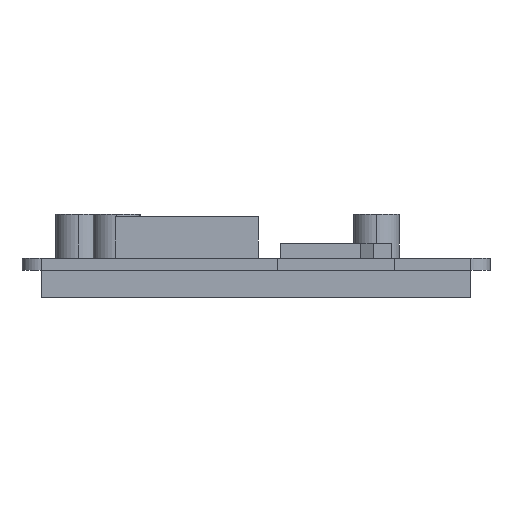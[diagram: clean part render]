
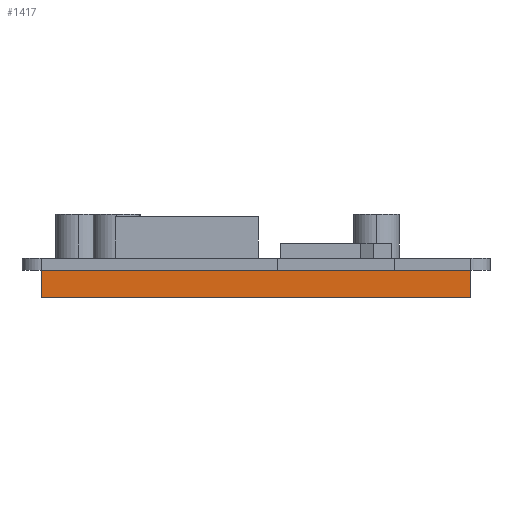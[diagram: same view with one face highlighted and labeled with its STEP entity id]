
A CAD part, left-side view. The second image highlights one B-rep face of the part: STEP entity #1417.
In plain terms, the highlighted planar face has unit normal (-1, 0, 0).
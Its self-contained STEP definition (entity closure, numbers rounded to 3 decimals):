
#331=DIRECTION('',(0.,1.,0.));
#332=VECTOR('',#331,56.8);
#333=CARTESIAN_POINT('',(-45.55,-28.4,-1.6));
#334=LINE('',#333,#332);
#423=DIRECTION('',(0.,0.,-1.));
#424=VECTOR('',#423,3.6);
#425=CARTESIAN_POINT('',(-45.55,28.4,-1.6));
#426=LINE('',#425,#424);
#427=DIRECTION('',(0.,0.,-1.));
#428=VECTOR('',#427,3.6);
#429=CARTESIAN_POINT('',(-45.55,-28.4,-1.6));
#430=LINE('',#429,#428);
#443=DIRECTION('',(0.,1.,0.));
#444=VECTOR('',#443,56.8);
#445=CARTESIAN_POINT('',(-45.55,-28.4,-5.2));
#446=LINE('',#445,#444);
#769=CARTESIAN_POINT('',(-45.55,28.4,-5.2));
#771=VERTEX_POINT('',#769);
#775=CARTESIAN_POINT('',(-45.55,-28.4,-5.2));
#776=VERTEX_POINT('',#775);
#777=CARTESIAN_POINT('',(-45.55,28.4,-1.6));
#779=VERTEX_POINT('',#777);
#783=CARTESIAN_POINT('',(-45.55,-28.4,-1.6));
#784=VERTEX_POINT('',#783);
#1404=CARTESIAN_POINT('',(-45.55,-28.4,-1.6));
#1405=DIRECTION('',(-1.,0.,0.));
#1406=DIRECTION('',(0.,1.,0.));
#1407=AXIS2_PLACEMENT_3D('',#1404,#1405,#1406);
#1408=PLANE('',#1407);
#1409=ORIENTED_EDGE('',*,*,#1098,.F.);
#1411=ORIENTED_EDGE('',*,*,#1410,.T.);
#1413=ORIENTED_EDGE('',*,*,#1412,.T.);
#1414=ORIENTED_EDGE('',*,*,#1395,.F.);
#1415=EDGE_LOOP('',(#1409,#1411,#1413,#1414));
#1416=FACE_OUTER_BOUND('',#1415,.F.);
#1098=EDGE_CURVE('',#784,#779,#334,.T.);
#1395=EDGE_CURVE('',#779,#771,#426,.T.);
#1410=EDGE_CURVE('',#784,#776,#430,.T.);
#1412=EDGE_CURVE('',#776,#771,#446,.T.);
#1417=ADVANCED_FACE('',(#1416),#1408,.T.);
